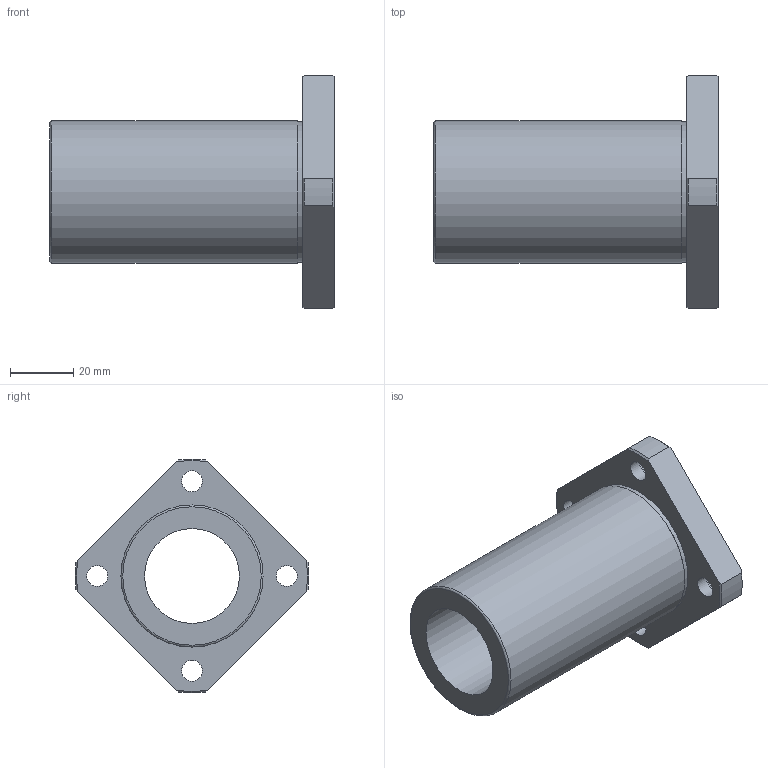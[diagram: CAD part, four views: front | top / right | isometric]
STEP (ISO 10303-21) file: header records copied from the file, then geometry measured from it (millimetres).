
FILE_DESCRIPTION(('STEP AP203'),'1');
FILE_NAME('//192.168.1.1/share/s-4 技術開発/s-4-4_CAD/s-4-4-3_見直し済み/002 修正済み/NFES-VM/NFES-30VM.step','2022-02-04T07:04:01',(' '),(' '),'Spatial InterOp 3D',' ',' ');
FILE_SCHEMA(('CONFIG_CONTROL_DESIGN'));
Length unit declared in the file: millimetre
Products named in the file (1): 1
Bounding box: 90 x 73.95 x 73.95 mm (x, y, z)
Volume: 93648.2 mm3; surface area: 28067.5 mm2
Topology: 1 solids, 1 shells, 36 faces, 93 edges, 65 vertices
Faces by surface type: cylinder 15, plane 12, cone 8, torus 1
Full cylindrical faces by diameter (mm): 6.6 x4, 11 x4, 30 x1, 44.4 x1, 45 x1
Entity records: 1026 total; most frequent: CARTESIAN_POINT 195, DIRECTION 168, ORIENTED_EDGE 142, AXIS2_PLACEMENT_3D 76, EDGE_CURVE 71, EDGE_LOOP 64, VERTEX_POINT 55, FACE_OUTER_BOUND 48
